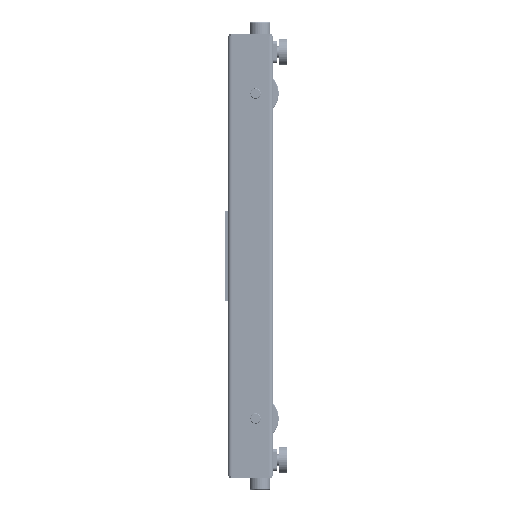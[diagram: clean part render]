
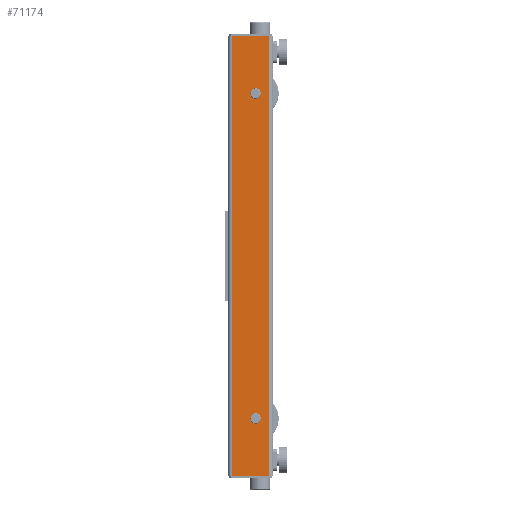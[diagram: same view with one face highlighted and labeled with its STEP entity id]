
A CAD part, left-side view. The second image highlights one B-rep face of the part: STEP entity #71174.
In plain terms, the highlighted planar face has unit normal (-1, 0, 0).
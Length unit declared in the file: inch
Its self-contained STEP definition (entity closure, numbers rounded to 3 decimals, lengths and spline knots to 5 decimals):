
#3653 = DIRECTION ( 'NONE',  ( 0., -1., 0. ) ) ;
#4429 = CARTESIAN_POINT ( 'NONE',  ( 0., 0.5, 58.125 ) ) ;
#5623 = CARTESIAN_POINT ( 'NONE',  ( 0., 0.5, 58.125 ) ) ;
#10500 = ORIENTED_EDGE ( 'NONE', *, *, #23897, .F. ) ;
#13206 = AXIS2_PLACEMENT_3D ( 'NONE', #5623, #144153, #107926 ) ;
#13886 = CARTESIAN_POINT ( 'NONE',  ( 0., 1.636, 50.563 ) ) ;
#14132 = FACE_OUTER_BOUND ( 'NONE', #31189, .T. ) ;
#16116 = EDGE_CURVE ( 'NONE', #38529, #86156, #90694, .T. ) ;
#18187 = ORIENTED_EDGE ( 'NONE', *, *, #102548, .T. ) ;
#20217 = DIRECTION ( 'NONE',  ( 1., 0., 0. ) ) ;
#21011 = CARTESIAN_POINT ( 'NONE',  ( 0., 2.326, 8.253 ) ) ;
#22051 = CARTESIAN_POINT ( 'NONE',  ( 0., 0.5, 0. ) ) ;
#23897 = EDGE_CURVE ( 'NONE', #141564, #147730, #132188, .T. ) ;
#29254 = AXIS2_PLACEMENT_3D ( 'NONE', #133589, #78872, #148192 ) ;
#30646 = CARTESIAN_POINT ( 'NONE',  ( 0., 5.5, 58.125 ) ) ;
#31189 = EDGE_LOOP ( 'NONE', ( #101646, #10500, #61390, #116057 ) ) ;
#31302 = VERTEX_POINT ( 'NONE', #120252 ) ;
#33274 = CARTESIAN_POINT ( 'NONE',  ( 0., 2.326, 50.563 ) ) ;
#33929 = CARTESIAN_POINT ( 'NONE',  ( 0., 2.326, 50.563 ) ) ;
#35885 = CARTESIAN_POINT ( 'NONE',  ( 0., 2.326, 6.873 ) ) ;
#35897 = AXIS2_PLACEMENT_3D ( 'NONE', #33274, #20217, #79423 ) ;
#36158 = DIRECTION ( 'NONE',  ( 0., 1., 0. ) ) ;
#36324 = EDGE_CURVE ( 'NONE', #84895, #31302, #114536, .T. ) ;
#38243 = LINE ( 'NONE', #109028, #133262 ) ;
#38249 = DIRECTION ( 'NONE',  ( 0., 0., -1. ) ) ;
#38529 = VERTEX_POINT ( 'NONE', #21011 ) ;
#42494 = CARTESIAN_POINT ( 'NONE',  ( 0., 5.5, 0. ) ) ;
#49286 = DIRECTION ( 'NONE',  ( 0., 0., -1. ) ) ;
#55906 = EDGE_CURVE ( 'NONE', #93451, #75204, #102169, .T. ) ;
#60851 = CARTESIAN_POINT ( 'NONE',  ( 0., 2.326, 7.563 ) ) ;
#61390 = ORIENTED_EDGE ( 'NONE', *, *, #104699, .F. ) ;
#66050 = DIRECTION ( 'NONE',  ( 0., 0., -1. ) ) ;
#66725 = ORIENTED_EDGE ( 'NONE', *, *, #93141, .T. ) ;
#69468 = EDGE_CURVE ( 'NONE', #75204, #147730, #38243, .T. ) ;
#71174 = ADVANCED_FACE ( 'NONE', ( #74850, #87169, #14132 ), #84121, .F. ) ;
#74850 = FACE_BOUND ( 'NONE', #88156, .T. ) ;
#75204 = VERTEX_POINT ( 'NONE', #42494 ) ;
#77968 = CARTESIAN_POINT ( 'NONE',  ( 0., 0.5, 58.125 ) ) ;
#78872 = DIRECTION ( 'NONE',  ( 1., 0., 0. ) ) ;
#79423 = DIRECTION ( 'NONE',  ( 0., 1., 0. ) ) ;
#80910 = EDGE_LOOP ( 'NONE', ( #18187, #133786 ) ) ;
#84121 = PLANE ( 'NONE',  #13206 ) ;
#84895 = VERTEX_POINT ( 'NONE', #13886 ) ;
#84985 = CIRCLE ( 'NONE', #35897, 0.69 ) ;
#86156 = VERTEX_POINT ( 'NONE', #35885 ) ;
#87169 = FACE_BOUND ( 'NONE', #80910, .T. ) ;
#88156 = EDGE_LOOP ( 'NONE', ( #66725, #88732 ) ) ;
#88732 = ORIENTED_EDGE ( 'NONE', *, *, #16116, .T. ) ;
#90694 = CIRCLE ( 'NONE', #29254, 0.69 ) ;
#93141 = EDGE_CURVE ( 'NONE', #86156, #38529, #95977, .T. ) ;
#93451 = VERTEX_POINT ( 'NONE', #121619 ) ;
#95016 = VECTOR ( 'NONE', #66050, 39.37008 ) ;
#95458 = DIRECTION ( 'NONE',  ( 1., 0., 0. ) ) ;
#95977 = CIRCLE ( 'NONE', #128020, 0.69 ) ;
#100871 = CARTESIAN_POINT ( 'NONE',  ( 0., 0.5, 58.125 ) ) ;
#101045 = DIRECTION ( 'NONE',  ( 0., -1., 0. ) ) ;
#101646 = ORIENTED_EDGE ( 'NONE', *, *, #69468, .T. ) ;
#102169 = LINE ( 'NONE', #30646, #95016 ) ;
#102548 = EDGE_CURVE ( 'NONE', #31302, #84895, #84985, .T. ) ;
#103386 = VECTOR ( 'NONE', #38249, 39.37008 ) ;
#104699 = EDGE_CURVE ( 'NONE', #93451, #141564, #127214, .T. ) ;
#107926 = DIRECTION ( 'NONE',  ( 0., 1., 0. ) ) ;
#109028 = CARTESIAN_POINT ( 'NONE',  ( 0., 0.5, 0. ) ) ;
#114536 = CIRCLE ( 'NONE', #151523, 0.69 ) ;
#116057 = ORIENTED_EDGE ( 'NONE', *, *, #55906, .T. ) ;
#117297 = VECTOR ( 'NONE', #101045, 39.37008 ) ;
#120252 = CARTESIAN_POINT ( 'NONE',  ( 0., 3.016, 50.563 ) ) ;
#121619 = CARTESIAN_POINT ( 'NONE',  ( 0., 5.5, 58.125 ) ) ;
#127214 = LINE ( 'NONE', #77968, #117297 ) ;
#128020 = AXIS2_PLACEMENT_3D ( 'NONE', #60851, #95458, #49286 ) ;
#132188 = LINE ( 'NONE', #4429, #103386 ) ;
#133262 = VECTOR ( 'NONE', #3653, 39.37008 ) ;
#133589 = CARTESIAN_POINT ( 'NONE',  ( 0., 2.326, 7.563 ) ) ;
#133786 = ORIENTED_EDGE ( 'NONE', *, *, #36324, .T. ) ;
#140901 = DIRECTION ( 'NONE',  ( 1., 0., 0. ) ) ;
#141564 = VERTEX_POINT ( 'NONE', #100871 ) ;
#144153 = DIRECTION ( 'NONE',  ( 1., 0., 0. ) ) ;
#147730 = VERTEX_POINT ( 'NONE', #22051 ) ;
#148192 = DIRECTION ( 'NONE',  ( 0., 0., -1. ) ) ;
#151523 = AXIS2_PLACEMENT_3D ( 'NONE', #33929, #140901, #36158 ) ;
